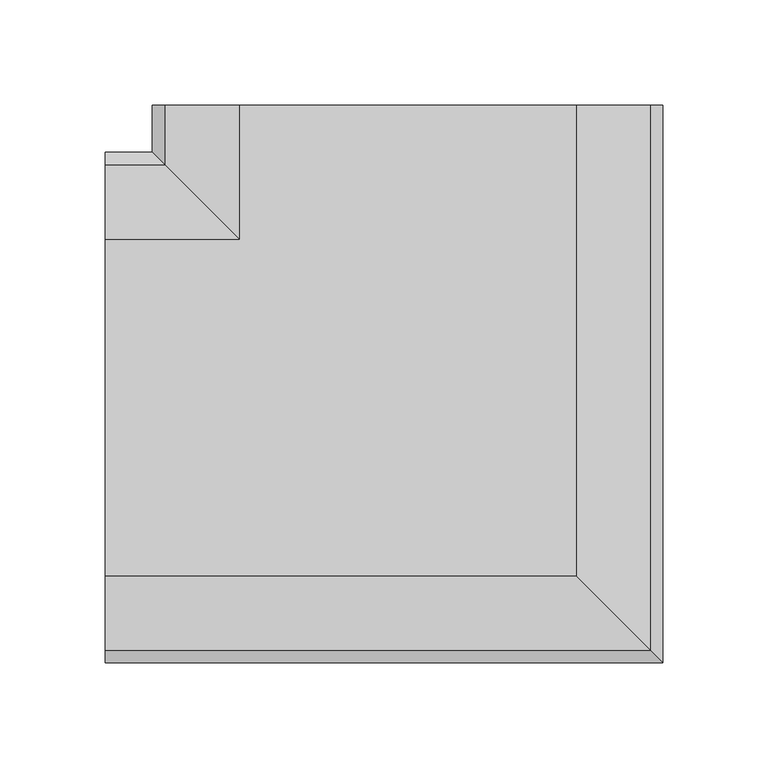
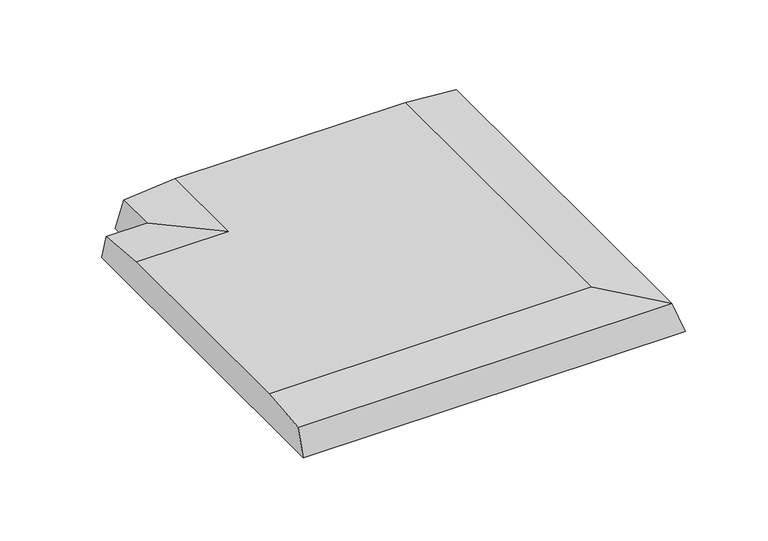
"""IFC4 building model written with IfcOpenShell, lengths in millimetres: proxy geometry, ROSA GRES_245 EF_Colocación en plano : Pieza 245 EF_Tresor_Java_Anti-Slip."""

from ifc_helpers import new_model, si_unit, frame, origin, place, context, project, spatial, circle_curve, ellipse_curve, source, transform, mapped, element, save
from ifc_brep_helpers import plane_surface, cylinder_surface, advanced_brep


def generic_models_c9809163(model_context):
    return source(origin(), model_context, "Body", "AdvancedBrep", [
        advanced_brep(
        [(-265.5203405, 41.366901, 0.0), (-265.5203405, 201.3121437, 0.0), (-265.5203405, 237.1998275, -3.0704499), (-265.5203405, 243.1019432, -22.0), (-265.5203405, 0.0, -22.0), (-265.5203405, 5.926953, -3.0209998), (-41.366901, 265.5203405, 0.0), (-5.926953, 265.5203405, -3.0209998), (0.0, 265.5203405, -22.0), (-243.1019432, 265.5203405, -22.0), (-237.1998275, 265.5203405, -3.0704499), (-201.3121437, 265.5203405, 0.0), (-5.926953, 5.926953, -3.0209998), (-41.366901, 41.366901, 0.0), (0.0, 0.0, -22.0), (-243.1019432, 243.1019432, -22.0), (-201.3121437, 201.3121437, 0.0), (-237.1998275, 237.1998275, -3.0704499)],
        [
            (0, 1),
            (1, 2, circle_curve(frame((-265.5203405, 157.7655093, -720.2412375), z_axis=(-1.0, 0.0, 0.0), x_axis=(0.0, -1.0, 0.0)), 721.556477)),
            (2, 3),
            (3, 4),
            (4, 5),
            (5, 0, circle_curve(frame((-265.5203405, 84.9135355, -720.2412375), z_axis=(-1.0, 0.0, 0.0), x_axis=(0.0, -1.0, 0.0)), 721.556477)),
            (6, 7, circle_curve(frame((-84.9135355, 265.5203405, -720.2412375), z_axis=(0.0, 1.0, 0.0), x_axis=(1.0, 0.0, 0.0)), 721.556477)),
            (7, 8),
            (8, 9),
            (9, 10),
            (10, 11, circle_curve(frame((-157.7655093, 265.5203405, -720.2412375), z_axis=(0.0, 1.0, 0.0), x_axis=(1.0, 0.0, 0.0)), 721.556477)),
            (11, 6),
            (5, 12),
            (12, 13, ellipse_curve(frame((-84.9135355, 84.9135355, -720.2412375), z_axis=(-0.7071067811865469, -0.7071067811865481, 0.0), x_axis=(-0.7071067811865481, 0.7071067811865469, 0.0)), 1020.4349559, 721.556477)),
            (13, 0),
            (4, 14),
            (14, 12),
            (3, 15),
            (15, 9),
            (8, 14),
            (13, 6),
            (11, 16),
            (16, 1),
            (12, 7),
            (2, 17),
            (17, 15),
            (16, 17, ellipse_curve(frame((-157.7655093, 157.7655093, -720.2412375), z_axis=(-0.7071067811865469, -0.7071067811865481, 0.0), x_axis=(-0.7071067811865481, 0.7071067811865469, 0.0)), 1020.4349559, 721.556477)),
            (17, 10),
        ],
        [
            plane_surface(frame((-265.5203405, -0.4796595, 0.0), z_axis=(-1.0, 0.0, 0.0), x_axis=(0.0, 0.0, 1.0))),
            plane_surface(frame((0.4796595, 265.5203405, 0.0), z_axis=(0.0, 1.0, 0.0), x_axis=(0.0, 0.0, 1.0))),
            cylinder_surface(frame((-265.5203405, 84.9135355, -720.2412375), z_axis=(-1.0, 0.0, 0.0), x_axis=(0.0, -1.0, 0.0)), 721.556477),
            plane_surface(frame((-265.5203405, 5.926953, -3.0209998), z_axis=(0.0, -0.9545370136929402, 0.29809241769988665), x_axis=(1.0, 0.0, 0.0))),
            plane_surface(frame((-265.5203405, 0.0, -22.0), z_axis=(0.0, 0.0, -1.0), x_axis=(1.0, 0.0, 0.0))),
            plane_surface(frame((-265.5203405, 201.3121437, 0.0), z_axis=(0.0, 0.0, 1.0), x_axis=(1.0, 0.0, 0.0))),
            cylinder_surface(frame((-84.9135355, -0.4796595, -720.2412375), z_axis=(0.0, -1.0, 0.0), x_axis=(1.0, 0.0, 0.0)), 721.556477),
            plane_surface(frame((-5.926953, 5.926953, -3.0209998), z_axis=(0.9545370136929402, 0.0, 0.2980924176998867), x_axis=(0.0, 1.0, 0.0))),
            plane_surface(frame((-265.5203405, 243.1019432, -22.0), z_axis=(0.0, 0.9546717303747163, 0.2976606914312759), x_axis=(1.0, 0.0, 0.0))),
            cylinder_surface(frame((-265.5203405, 157.7655093, -720.2412375), z_axis=(-1.0, 0.0, 0.0), x_axis=(0.0, -1.0, 0.0)), 721.556477),
            plane_surface(frame((-243.1019432, 243.1019432, -22.0), z_axis=(-0.9546717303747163, 0.0, 0.29766069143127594), x_axis=(0.0, 1.0, 0.0))),
            cylinder_surface(frame((-157.7655093, -0.4796595, -720.2412375), z_axis=(0.0, -1.0, 0.0), x_axis=(1.0, 0.0, 0.0)), 721.556477),
        ],
        [
            (0, [[1, 2, 3, 4, 5, 6]]),
            (1, [[7, 8, 9, 10, 11, 12]]),
            (2, [[13, 14, 15, -6]]),
            (3, [[16, 17, -13, -5]]),
            (4, [[18, 19, -9, 20, -16, -4]]),
            (5, [[-15, 21, -12, 22, 23, -1]]),
            (6, [[24, -7, -21, -14]]),
            (7, [[-20, -8, -24, -17]]),
            (8, [[25, 26, -18, -3]]),
            (9, [[-23, 27, -25, -2]]),
            (10, [[28, -10, -19, -26]]),
            (11, [[-22, -11, -28, -27]]),
        ],
    ),
    ])


if __name__ == "__main__":
    model = new_model("IFC4")
    model_context = context("Model", 3, world=origin())
    ifc_project = project(units=[si_unit("LENGTHUNIT", "METRE", prefix="MILLI")], contexts=[model_context])
    site = spatial("IfcSite", under=ifc_project)
    building = spatial("IfcBuilding", under=site)
    placement = place(None, origin())
    generic_models_shape = generic_models_c9809163(model_context)
    element("IfcBuildingElementProxy", 1, Name="ROSA GRES_245 EF_Colocación en plano : Pieza 245 EF_Tresor_Java_Anti-Slip", ObjectType="ROSA GRES_245 EF_Colocación en plano : Pieza 245 EF_Tresor_Java_Anti-Slip", at=placement, inside=building, context=model_context, shape_type="MappedRepresentation", body=[
        mapped(generic_models_shape, transform((0.0, 0.0, 0.0), x_axis=(1.0, 0.0, 0.0), y_axis=(0.0, 1.0, 0.0), z_axis=(0.0, 0.0, 1.0))),
    ])
    save(model, "model.ifc")
